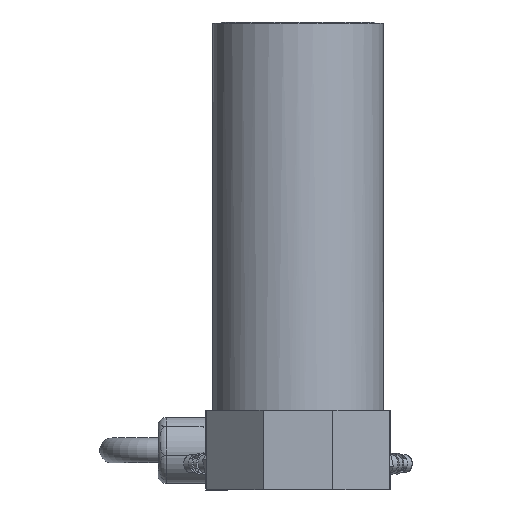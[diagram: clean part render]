
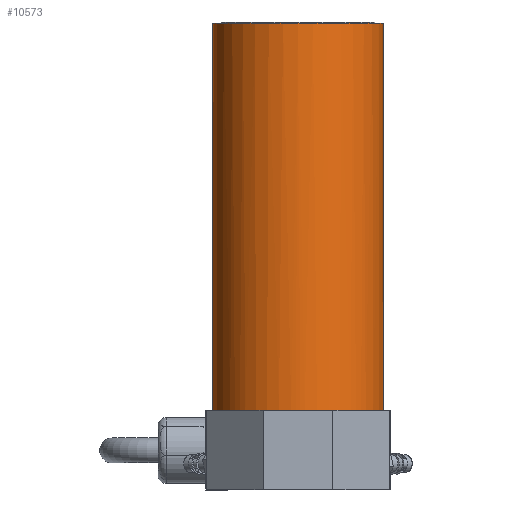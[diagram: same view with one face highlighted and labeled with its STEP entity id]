
A CAD part, left-side view. The second image highlights one B-rep face of the part: STEP entity #10573.
In plain terms, the highlighted cylindrical face has radius 20.637 mm (diameter 41.275 mm), a full revolution.
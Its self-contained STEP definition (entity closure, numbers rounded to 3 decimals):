
#1841=FACE_OUTER_BOUND('',#2485,.T.);
#2485=EDGE_LOOP('',(#9523,#9524,#9525,#9526,#9527,#9528,#9529,#9530,#9531,
#9532,#9533,#9534,#9535,#9536));
#3347=LINE('',#18460,#4193);
#4193=VECTOR('',#13829,20.638);
#4560=CIRCLE('',#11420,20.638);
#4561=CIRCLE('',#11421,20.638);
#4562=CIRCLE('',#11423,20.638);
#4563=CIRCLE('',#11425,20.638);
#4564=CIRCLE('',#11427,20.638);
#4565=CIRCLE('',#11429,20.638);
#4566=CIRCLE('',#11431,20.638);
#4568=CIRCLE('',#11434,20.638);
#4569=CIRCLE('',#11435,20.638);
#4570=CIRCLE('',#11436,20.638);
#4571=CIRCLE('',#11437,20.638);
#4572=CIRCLE('',#11438,20.638);
#4986=VERTEX_POINT('',#15727);
#4987=VERTEX_POINT('',#15729);
#4989=VERTEX_POINT('',#15735);
#4990=VERTEX_POINT('',#15737);
#4993=VERTEX_POINT('',#15745);
#4996=VERTEX_POINT('',#15753);
#5036=VERTEX_POINT('',#15875);
#5040=VERTEX_POINT('',#15885);
#5042=VERTEX_POINT('',#15891);
#5043=VERTEX_POINT('',#15893);
#5511=VERTEX_POINT('',#18442);
#5512=VERTEX_POINT('',#18455);
#6883=EDGE_CURVE('',#4993,#5511,#4560,.T.);
#6884=EDGE_CURVE('',#5511,#5040,#4561,.T.);
#6886=EDGE_CURVE('',#4990,#4996,#4562,.T.);
#6887=EDGE_CURVE('',#4987,#4989,#4563,.T.);
#6888=EDGE_CURVE('',#5043,#4986,#4564,.T.);
#6889=EDGE_CURVE('',#5036,#5042,#4565,.T.);
#6890=EDGE_CURVE('',#5512,#5512,#4566,.T.);
#6892=EDGE_CURVE('',#5512,#5511,#3347,.T.);
#6893=EDGE_CURVE('',#4996,#4993,#4568,.T.);
#6894=EDGE_CURVE('',#4989,#4990,#4569,.T.);
#6895=EDGE_CURVE('',#4986,#4987,#4570,.T.);
#6896=EDGE_CURVE('',#5042,#5043,#4571,.T.);
#6897=EDGE_CURVE('',#5040,#5036,#4572,.T.);
#9523=ORIENTED_EDGE('',*,*,#6890,.T.);
#9524=ORIENTED_EDGE('',*,*,#6892,.T.);
#9525=ORIENTED_EDGE('',*,*,#6883,.F.);
#9526=ORIENTED_EDGE('',*,*,#6893,.F.);
#9527=ORIENTED_EDGE('',*,*,#6886,.F.);
#9528=ORIENTED_EDGE('',*,*,#6894,.F.);
#9529=ORIENTED_EDGE('',*,*,#6887,.F.);
#9530=ORIENTED_EDGE('',*,*,#6895,.F.);
#9531=ORIENTED_EDGE('',*,*,#6888,.F.);
#9532=ORIENTED_EDGE('',*,*,#6896,.F.);
#9533=ORIENTED_EDGE('',*,*,#6889,.F.);
#9534=ORIENTED_EDGE('',*,*,#6897,.F.);
#9535=ORIENTED_EDGE('',*,*,#6884,.F.);
#9536=ORIENTED_EDGE('',*,*,#6892,.F.);
#10078=CYLINDRICAL_SURFACE('',#11433,20.638);
#10573=ADVANCED_FACE('',(#1841),#10078,.T.);
#11420=AXIS2_PLACEMENT_3D('',#18443,#13800,#13801);
#11421=AXIS2_PLACEMENT_3D('',#18444,#13802,#13803);
#11423=AXIS2_PLACEMENT_3D('',#18447,#13807,#13808);
#11425=AXIS2_PLACEMENT_3D('',#18449,#13811,#13812);
#11427=AXIS2_PLACEMENT_3D('',#18451,#13815,#13816);
#11429=AXIS2_PLACEMENT_3D('',#18453,#13819,#13820);
#11431=AXIS2_PLACEMENT_3D('',#18456,#13823,#13824);
#11433=AXIS2_PLACEMENT_3D('',#18459,#13827,#13828);
#11434=AXIS2_PLACEMENT_3D('',#18461,#13830,#13831);
#11435=AXIS2_PLACEMENT_3D('',#18462,#13832,#13833);
#11436=AXIS2_PLACEMENT_3D('',#18463,#13834,#13835);
#11437=AXIS2_PLACEMENT_3D('',#18464,#13836,#13837);
#11438=AXIS2_PLACEMENT_3D('',#18465,#13838,#13839);
#13800=DIRECTION('center_axis',(0.,0.,-1.));
#13801=DIRECTION('ref_axis',(-1.,0.,0.));
#13802=DIRECTION('center_axis',(0.,0.,-1.));
#13803=DIRECTION('ref_axis',(-1.,0.,0.));
#13807=DIRECTION('center_axis',(0.,0.,-1.));
#13808=DIRECTION('ref_axis',(-1.,0.,0.));
#13811=DIRECTION('center_axis',(0.,0.,-1.));
#13812=DIRECTION('ref_axis',(-1.,0.,0.));
#13815=DIRECTION('center_axis',(0.,0.,-1.));
#13816=DIRECTION('ref_axis',(-1.,0.,0.));
#13819=DIRECTION('center_axis',(0.,0.,-1.));
#13820=DIRECTION('ref_axis',(-1.,0.,0.));
#13823=DIRECTION('center_axis',(0.,0.,-1.));
#13824=DIRECTION('ref_axis',(-1.,0.,0.));
#13827=DIRECTION('center_axis',(0.,0.,1.));
#13828=DIRECTION('ref_axis',(-1.,0.,0.));
#13829=DIRECTION('',(0.,0.,-1.));
#13830=DIRECTION('center_axis',(0.,0.,-1.));
#13831=DIRECTION('ref_axis',(-1.,0.,0.));
#13832=DIRECTION('center_axis',(0.,0.,-1.));
#13833=DIRECTION('ref_axis',(-1.,0.,0.));
#13834=DIRECTION('center_axis',(0.,0.,-1.));
#13835=DIRECTION('ref_axis',(-1.,0.,0.));
#13836=DIRECTION('center_axis',(0.,0.,-1.));
#13837=DIRECTION('ref_axis',(-1.,0.,0.));
#13838=DIRECTION('center_axis',(0.,0.,-1.));
#13839=DIRECTION('ref_axis',(-1.,0.,0.));
#15727=CARTESIAN_POINT('',(-20.574,-1.618,19.177));
#15729=CARTESIAN_POINT('',(-20.574,1.618,19.177));
#15735=CARTESIAN_POINT('',(-16.306,12.65,19.177));
#15737=CARTESIAN_POINT('',(-12.65,16.306,19.177));
#15745=CARTESIAN_POINT('',(15.664,13.436,19.177));
#15753=CARTESIAN_POINT('',(12.65,16.306,19.177));
#15875=CARTESIAN_POINT('',(12.65,-16.306,19.177));
#15885=CARTESIAN_POINT('',(15.664,-13.436,19.177));
#15891=CARTESIAN_POINT('',(-12.65,-16.306,19.177));
#15893=CARTESIAN_POINT('',(-16.306,-12.65,19.177));
#18442=CARTESIAN_POINT('',(20.638,0.,19.177));
#18443=CARTESIAN_POINT('Origin',(0.,0.,19.177));
#18444=CARTESIAN_POINT('Origin',(0.,0.,19.177));
#18447=CARTESIAN_POINT('Origin',(0.,0.,19.177));
#18449=CARTESIAN_POINT('Origin',(0.,0.,19.177));
#18451=CARTESIAN_POINT('Origin',(0.,0.,19.177));
#18453=CARTESIAN_POINT('Origin',(0.,0.,19.177));
#18455=CARTESIAN_POINT('',(20.638,0.,112.395));
#18456=CARTESIAN_POINT('Origin',(0.,0.,112.395));
#18459=CARTESIAN_POINT('Origin',(0.,0.,19.177));
#18460=CARTESIAN_POINT('',(20.638,0.,19.177));
#18461=CARTESIAN_POINT('Origin',(0.,0.,19.177));
#18462=CARTESIAN_POINT('Origin',(0.,0.,19.177));
#18463=CARTESIAN_POINT('Origin',(0.,0.,19.177));
#18464=CARTESIAN_POINT('Origin',(0.,0.,19.177));
#18465=CARTESIAN_POINT('Origin',(0.,0.,19.177));
